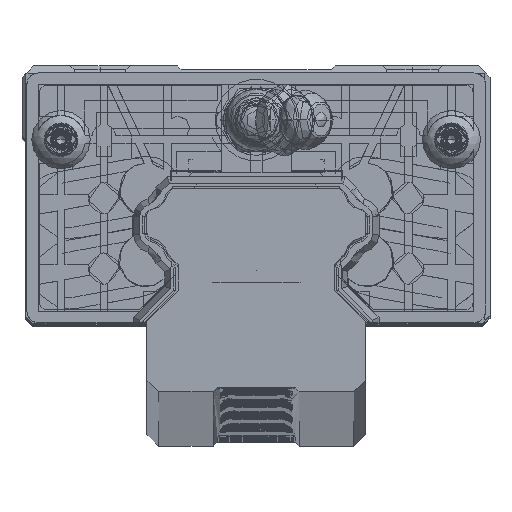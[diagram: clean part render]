
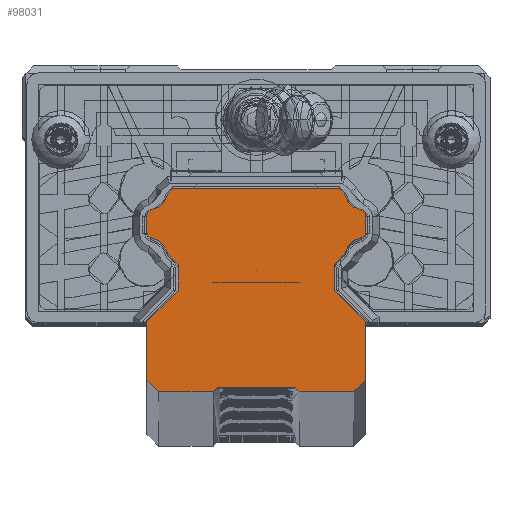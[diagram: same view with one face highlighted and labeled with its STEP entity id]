
A CAD part, top view. The second image highlights one B-rep face of the part: STEP entity #98031.
In plain terms, the highlighted planar face has unit normal (0, 0, 1).
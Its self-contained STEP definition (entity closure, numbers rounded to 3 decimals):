
#88661=DIRECTION('',(0.707,0.707,0.));
#88662=VECTOR('',#88661,0.707);
#88663=CARTESIAN_POINT('',(-5.5,-21.5,500.));
#88664=LINE('',#88663,#88662);
#88732=DIRECTION('',(-1.,0.,0.));
#88733=VECTOR('',#88732,21.4);
#88734=CARTESIAN_POINT('',(10.7,4.5,500.));
#88735=LINE('',#88734,#88733);
#89236=DIRECTION('',(-0.707,-0.707,0.));
#89237=VECTOR('',#89236,0.79);
#89238=CARTESIAN_POINT('',(-10.7,4.5,500.));
#89239=LINE('',#89238,#89237);
#90021=CARTESIAN_POINT('',(5.,-21.,500.));
#90023=DIRECTION('',(0.707,-0.707,0.));
#90024=VECTOR('',#90023,0.707);
#90025=CARTESIAN_POINT('',(5.,-21.,500.));
#90026=LINE('',#90025,#90024);
#92097=DIRECTION('',(1.,0.,0.));
#92098=VECTOR('',#92097,10.);
#92099=CARTESIAN_POINT('',(-5.,-21.,500.));
#92100=LINE('',#92099,#92098);
#92167=CARTESIAN_POINT('',(-14.086,-4.586,500.));
#92168=DIRECTION('',(0.,0.,1.));
#92169=DIRECTION('',(0.976,0.216,0.));
#92170=AXIS2_PLACEMENT_3D('',#92167,#92168,#92169);
#92172=CARTESIAN_POINT('',(-13.4,-1.154,500.));
#92173=DIRECTION('',(0.,0.,-1.));
#92174=DIRECTION('',(-0.196,-0.981,0.));
#92175=AXIS2_PLACEMENT_3D('',#92172,#92173,#92174);
#92177=DIRECTION('',(0.,1.,0.));
#92178=VECTOR('',#92177,2.308);
#92179=CARTESIAN_POINT('',(-14.,-1.154,500.));
#92180=LINE('',#92179,#92178);
#92181=CARTESIAN_POINT('',(-13.4,1.154,500.));
#92182=DIRECTION('',(0.,0.,-1.));
#92183=DIRECTION('',(-1.,0.,0.));
#92184=AXIS2_PLACEMENT_3D('',#92181,#92182,#92183);
#92186=CARTESIAN_POINT('',(-14.086,4.586,500.));
#92187=DIRECTION('',(0.,0.,1.));
#92188=DIRECTION('',(0.196,-0.981,0.));
#92189=AXIS2_PLACEMENT_3D('',#92186,#92187,#92188);
#92191=CARTESIAN_POINT('',(14.086,4.586,500.));
#92192=DIRECTION('',(0.,0.,1.));
#92193=DIRECTION('',(-0.975,-0.222,0.));
#92194=AXIS2_PLACEMENT_3D('',#92191,#92192,#92193);
#92196=CARTESIAN_POINT('',(13.4,1.154,500.));
#92197=DIRECTION('',(0.,0.,-1.));
#92198=DIRECTION('',(0.196,0.981,0.));
#92199=AXIS2_PLACEMENT_3D('',#92196,#92197,#92198);
#92201=DIRECTION('',(0.,-1.,0.));
#92202=VECTOR('',#92201,2.308);
#92203=CARTESIAN_POINT('',(14.,1.154,500.));
#92204=LINE('',#92203,#92202);
#92205=CARTESIAN_POINT('',(13.4,-1.154,500.));
#92206=DIRECTION('',(0.,0.,-1.));
#92207=DIRECTION('',(1.,0.,0.));
#92208=AXIS2_PLACEMENT_3D('',#92205,#92206,#92207);
#92210=CARTESIAN_POINT('',(14.086,-4.586,500.));
#92211=DIRECTION('',(0.,0.,1.));
#92212=DIRECTION('',(-0.196,0.981,0.));
#92213=AXIS2_PLACEMENT_3D('',#92210,#92211,#92212);
#92215=DIRECTION('',(-0.707,-0.707,0.));
#92216=VECTOR('',#92215,1.774);
#92217=CARTESIAN_POINT('',(11.254,-3.961,500.));
#92218=LINE('',#92217,#92216);
#92219=DIRECTION('',(0.,-1.,0.));
#92220=VECTOR('',#92219,3.285);
#92221=CARTESIAN_POINT('',(10.,-5.215,500.));
#92222=LINE('',#92221,#92220);
#92223=DIRECTION('',(0.707,-0.707,0.));
#92224=VECTOR('',#92223,5.657);
#92225=CARTESIAN_POINT('',(10.,-8.5,500.));
#92226=LINE('',#92225,#92224);
#92227=DIRECTION('',(0.,-1.,0.));
#92228=VECTOR('',#92227,7.5);
#92229=CARTESIAN_POINT('',(14.,-12.5,500.));
#92230=LINE('',#92229,#92228);
#92231=DIRECTION('',(-0.707,-0.707,0.));
#92232=VECTOR('',#92231,2.121);
#92233=CARTESIAN_POINT('',(14.,-20.,500.));
#92234=LINE('',#92233,#92232);
#92235=DIRECTION('',(-1.,0.,0.));
#92236=VECTOR('',#92235,7.);
#92237=CARTESIAN_POINT('',(12.5,-21.5,500.));
#92238=LINE('',#92237,#92236);
#92239=DIRECTION('',(-1.,0.,0.));
#92240=VECTOR('',#92239,7.);
#92241=CARTESIAN_POINT('',(-5.5,-21.5,500.));
#92242=LINE('',#92241,#92240);
#92243=DIRECTION('',(-0.707,0.707,0.));
#92244=VECTOR('',#92243,2.121);
#92245=CARTESIAN_POINT('',(-12.5,-21.5,500.));
#92246=LINE('',#92245,#92244);
#92247=DIRECTION('',(0.,1.,0.));
#92248=VECTOR('',#92247,7.5);
#92249=CARTESIAN_POINT('',(-14.,-20.,500.));
#92250=LINE('',#92249,#92248);
#92251=DIRECTION('',(0.707,0.707,0.));
#92252=VECTOR('',#92251,5.657);
#92253=CARTESIAN_POINT('',(-14.,-12.5,500.));
#92254=LINE('',#92253,#92252);
#92255=DIRECTION('',(0.,1.,0.));
#92256=VECTOR('',#92255,3.285);
#92257=CARTESIAN_POINT('',(-10.,-8.5,500.));
#92258=LINE('',#92257,#92256);
#92259=DIRECTION('',(-0.707,0.707,0.));
#92260=VECTOR('',#92259,1.774);
#92261=CARTESIAN_POINT('',(-10.,-5.215,500.));
#92262=LINE('',#92261,#92260);
#92263=DIRECTION('',(-0.707,0.707,0.));
#92264=VECTOR('',#92263,0.79);
#92265=CARTESIAN_POINT('',(11.259,3.941,500.));
#92266=LINE('',#92265,#92264);
#92631=CARTESIAN_POINT('',(-11.254,-3.961,500.));
#92633=VERTEX_POINT('',#92631);
#92637=CARTESIAN_POINT('',(-13.518,-1.742,500.));
#92638=VERTEX_POINT('',#92637);
#92640=CARTESIAN_POINT('',(-10.,-5.215,500.));
#92642=VERTEX_POINT('',#92640);
#92644=CARTESIAN_POINT('',(-10.,-8.5,500.));
#92646=VERTEX_POINT('',#92644);
#92648=CARTESIAN_POINT('',(-14.,-12.5,500.));
#92650=VERTEX_POINT('',#92648);
#92652=CARTESIAN_POINT('',(-14.,-20.,500.));
#92654=VERTEX_POINT('',#92652);
#92656=CARTESIAN_POINT('',(-12.5,-21.5,500.));
#92658=VERTEX_POINT('',#92656);
#92660=CARTESIAN_POINT('',(-5.5,-21.5,500.));
#92662=VERTEX_POINT('',#92660);
#92680=CARTESIAN_POINT('',(-5.,-21.,500.));
#92681=VERTEX_POINT('',#92680);
#92800=VERTEX_POINT('',#90021);
#92837=CARTESIAN_POINT('',(-10.7,4.5,500.));
#92839=VERTEX_POINT('',#92837);
#92843=CARTESIAN_POINT('',(10.7,4.5,500.));
#92844=VERTEX_POINT('',#92843);
#93146=CARTESIAN_POINT('',(-11.259,3.941,500.));
#93148=VERTEX_POINT('',#93146);
#93150=CARTESIAN_POINT('',(-13.518,1.742,500.));
#93152=VERTEX_POINT('',#93150);
#93153=CARTESIAN_POINT('',(-14.,1.154,500.));
#93155=VERTEX_POINT('',#93153);
#93158=CARTESIAN_POINT('',(-14.,-1.154,500.));
#93160=VERTEX_POINT('',#93158);
#93185=CARTESIAN_POINT('',(5.5,-21.5,500.));
#93186=VERTEX_POINT('',#93185);
#93187=CARTESIAN_POINT('',(11.259,3.941,500.));
#93188=VERTEX_POINT('',#93187);
#93189=CARTESIAN_POINT('',(13.518,1.742,500.));
#93190=VERTEX_POINT('',#93189);
#93191=CARTESIAN_POINT('',(14.,1.154,500.));
#93192=VERTEX_POINT('',#93191);
#93193=CARTESIAN_POINT('',(14.,-1.154,500.));
#93194=VERTEX_POINT('',#93193);
#93195=CARTESIAN_POINT('',(13.518,-1.742,500.));
#93196=VERTEX_POINT('',#93195);
#93197=CARTESIAN_POINT('',(11.254,-3.961,500.));
#93198=VERTEX_POINT('',#93197);
#93199=CARTESIAN_POINT('',(10.,-5.215,500.));
#93200=VERTEX_POINT('',#93199);
#93201=CARTESIAN_POINT('',(10.,-8.5,500.));
#93202=VERTEX_POINT('',#93201);
#93203=CARTESIAN_POINT('',(14.,-12.5,500.));
#93204=VERTEX_POINT('',#93203);
#93205=CARTESIAN_POINT('',(14.,-20.,500.));
#93206=VERTEX_POINT('',#93205);
#93207=CARTESIAN_POINT('',(12.5,-21.5,500.));
#93208=VERTEX_POINT('',#93207);
#97984=CARTESIAN_POINT('',(0.,0.,500.));
#97985=DIRECTION('',(0.,0.,1.));
#97986=DIRECTION('',(1.,0.,0.));
#97987=AXIS2_PLACEMENT_3D('',#97984,#97985,#97986);
#97988=PLANE('',#97987);
#97989=ORIENTED_EDGE('',*,*,#93508,.T.);
#97990=ORIENTED_EDGE('',*,*,#94174,.T.);
#97991=ORIENTED_EDGE('',*,*,#94160,.T.);
#97992=ORIENTED_EDGE('',*,*,#94145,.T.);
#97993=ORIENTED_EDGE('',*,*,#94130,.T.);
#97994=ORIENTED_EDGE('',*,*,#94115,.F.);
#97995=ORIENTED_EDGE('',*,*,#93802,.F.);
#97997=ORIENTED_EDGE('',*,*,#97996,.F.);
#97999=ORIENTED_EDGE('',*,*,#97998,.T.);
#98001=ORIENTED_EDGE('',*,*,#98000,.T.);
#98003=ORIENTED_EDGE('',*,*,#98002,.T.);
#98005=ORIENTED_EDGE('',*,*,#98004,.T.);
#98007=ORIENTED_EDGE('',*,*,#98006,.T.);
#98009=ORIENTED_EDGE('',*,*,#98008,.T.);
#98011=ORIENTED_EDGE('',*,*,#98010,.T.);
#98013=ORIENTED_EDGE('',*,*,#98012,.T.);
#98015=ORIENTED_EDGE('',*,*,#98014,.T.);
#98017=ORIENTED_EDGE('',*,*,#98016,.T.);
#98019=ORIENTED_EDGE('',*,*,#98018,.T.);
#98020=ORIENTED_EDGE('',*,*,#95078,.F.);
#98021=ORIENTED_EDGE('',*,*,#97903,.F.);
#98022=ORIENTED_EDGE('',*,*,#93631,.F.);
#98023=ORIENTED_EDGE('',*,*,#93598,.T.);
#98024=ORIENTED_EDGE('',*,*,#93583,.T.);
#98025=ORIENTED_EDGE('',*,*,#93568,.T.);
#98026=ORIENTED_EDGE('',*,*,#93553,.T.);
#98027=ORIENTED_EDGE('',*,*,#93538,.T.);
#98028=ORIENTED_EDGE('',*,*,#93523,.T.);
#98029=EDGE_LOOP('',(#97989,#97990,#97991,#97992,#97993,#97994,#97995,#97997,
#97999,#98001,#98003,#98005,#98007,#98009,#98011,#98013,#98015,#98017,#98019,
#98020,#98021,#98022,#98023,#98024,#98025,#98026,#98027,#98028));
#98030=FACE_OUTER_BOUND('',#98029,.F.);
#98031=ADVANCED_FACE('',(#98030),#97988,.T.);
#92171=CIRCLE('',#92170,2.9);
#92176=CIRCLE('',#92175,0.6);
#92185=CIRCLE('',#92184,0.6);
#92190=CIRCLE('',#92189,2.9);
#92195=CIRCLE('',#92194,2.9);
#92200=CIRCLE('',#92199,0.6);
#92209=CIRCLE('',#92208,0.6);
#92214=CIRCLE('',#92213,2.9);
#93508=EDGE_CURVE('',#92633,#92638,#92171,.T.);
#93523=EDGE_CURVE('',#92642,#92633,#92262,.T.);
#93538=EDGE_CURVE('',#92646,#92642,#92258,.T.);
#93553=EDGE_CURVE('',#92650,#92646,#92254,.T.);
#93568=EDGE_CURVE('',#92654,#92650,#92250,.T.);
#93583=EDGE_CURVE('',#92658,#92654,#92246,.T.);
#93598=EDGE_CURVE('',#92662,#92658,#92242,.T.);
#93631=EDGE_CURVE('',#92662,#92681,#88664,.T.);
#93802=EDGE_CURVE('',#92844,#92839,#88735,.T.);
#94115=EDGE_CURVE('',#92839,#93148,#89239,.T.);
#94130=EDGE_CURVE('',#93152,#93148,#92190,.T.);
#94145=EDGE_CURVE('',#93155,#93152,#92185,.T.);
#94160=EDGE_CURVE('',#93160,#93155,#92180,.T.);
#94174=EDGE_CURVE('',#92638,#93160,#92176,.T.);
#95078=EDGE_CURVE('',#92800,#93186,#90026,.T.);
#97903=EDGE_CURVE('',#92681,#92800,#92100,.T.);
#97996=EDGE_CURVE('',#93188,#92844,#92266,.T.);
#97998=EDGE_CURVE('',#93188,#93190,#92195,.T.);
#98000=EDGE_CURVE('',#93190,#93192,#92200,.T.);
#98002=EDGE_CURVE('',#93192,#93194,#92204,.T.);
#98004=EDGE_CURVE('',#93194,#93196,#92209,.T.);
#98006=EDGE_CURVE('',#93196,#93198,#92214,.T.);
#98008=EDGE_CURVE('',#93198,#93200,#92218,.T.);
#98010=EDGE_CURVE('',#93200,#93202,#92222,.T.);
#98012=EDGE_CURVE('',#93202,#93204,#92226,.T.);
#98014=EDGE_CURVE('',#93204,#93206,#92230,.T.);
#98016=EDGE_CURVE('',#93206,#93208,#92234,.T.);
#98018=EDGE_CURVE('',#93208,#93186,#92238,.T.);
